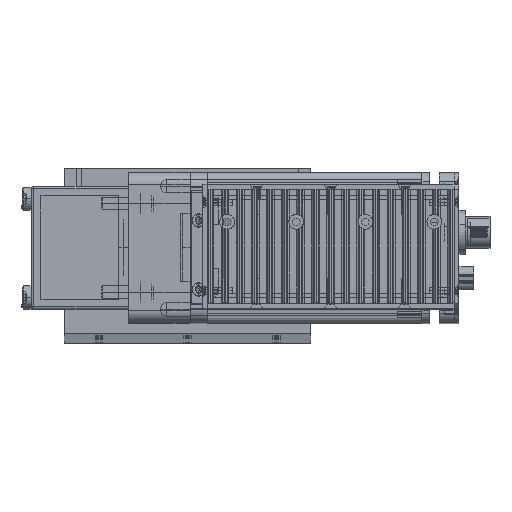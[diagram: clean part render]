
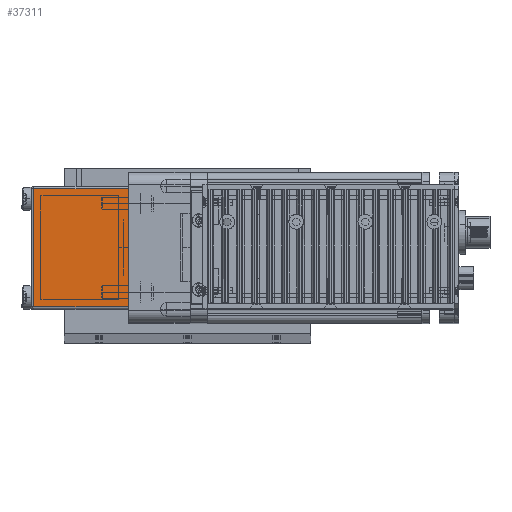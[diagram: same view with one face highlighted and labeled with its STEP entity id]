
A CAD part, top view. The second image highlights one B-rep face of the part: STEP entity #37311.
In plain terms, the highlighted planar face has unit normal (0, 0, 1) as drawn and (1, 0, 0) by its records, which use the part's own axes.
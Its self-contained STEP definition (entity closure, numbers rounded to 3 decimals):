
#15151 = CARTESIAN_POINT ( 'NONE',  ( 62., -24., 39.5 ) ) ;
#15152 = LINE ( 'NONE', #15151, #15234 ) ;
#15230 = DIRECTION ( 'NONE',  ( 0., 0., 1. ) ) ;
#15234 = VECTOR ( 'NONE', #15230, 1000. ) ;
#15596 = CARTESIAN_POINT ( 'NONE',  ( 62., -24., 0. ) ) ;
#15718 = DIRECTION ( 'NONE',  ( 0., 0., -1. ) ) ;
#15719 = VECTOR ( 'NONE', #15718, 1000. ) ;
#15803 = CARTESIAN_POINT ( 'NONE',  ( 62., 24., 39.5 ) ) ;
#15805 = LINE ( 'NONE', #15803, #15719 ) ;
#17289 = CARTESIAN_POINT ( 'NONE',  ( 62., 24., 0. ) ) ;
#17416 = CARTESIAN_POINT ( 'NONE',  ( 62., -24., 38.5 ) ) ;
#17687 = DIRECTION ( 'NONE',  ( 0., 1., 0. ) ) ;
#17689 = VECTOR ( 'NONE', #17687, 1000. ) ;
#17690 = CARTESIAN_POINT ( 'NONE',  ( 62., -25., 38.5 ) ) ;
#17729 = LINE ( 'NONE', #17690, #17689 ) ;
#17829 = CARTESIAN_POINT ( 'NONE',  ( 62., 24., 38.5 ) ) ;
#17838 = DIRECTION ( 'NONE',  ( 0., 1., 0. ) ) ;
#17839 = VECTOR ( 'NONE', #17838, 1000. ) ;
#17841 = CARTESIAN_POINT ( 'NONE',  ( 62., -25., 0. ) ) ;
#17847 = LINE ( 'NONE', #17841, #17839 ) ;
#18114 = CARTESIAN_POINT ( 'NONE',  ( 62., 25., 39.5 ) ) ;
#18156 = DIRECTION ( 'NONE',  ( 0., -1., 0. ) ) ;
#18166 = PLANE ( 'NONE',  #18200 ) ;
#18179 = FACE_OUTER_BOUND ( 'NONE', #37153, .T. ) ;
#18190 = DIRECTION ( 'NONE',  ( -1., 0., 0. ) ) ;
#18200 = AXIS2_PLACEMENT_3D ( 'NONE', #18114, #18190, #18156 ) ;
#36568 = VERTEX_POINT ( 'NONE', #15596 ) ;
#36614 = EDGE_CURVE ( 'NONE', #37238, #37129, #15805, .T. ) ;
#36640 = EDGE_CURVE ( 'NONE', #36568, #37132, #15152, .T. ) ;
#37129 = VERTEX_POINT ( 'NONE', #17289 ) ;
#37132 = VERTEX_POINT ( 'NONE', #17416 ) ;
#37153 = EDGE_LOOP ( 'NONE', ( #37196, #37212, #37222, #37233 ) ) ;
#37196 = ORIENTED_EDGE ( 'NONE', *, *, #36640, .F. ) ;
#37212 = ORIENTED_EDGE ( 'NONE', *, *, #37232, .T. ) ;
#37214 = EDGE_CURVE ( 'NONE', #37132, #37238, #17729, .T. ) ;
#37222 = ORIENTED_EDGE ( 'NONE', *, *, #36614, .F. ) ;
#37232 = EDGE_CURVE ( 'NONE', #36568, #37129, #17847, .T. ) ;
#37233 = ORIENTED_EDGE ( 'NONE', *, *, #37214, .F. ) ;
#37238 = VERTEX_POINT ( 'NONE', #17829 ) ;
#37311 = ADVANCED_FACE ( 'NONE', ( #18179 ), #18166, .F. ) ;
